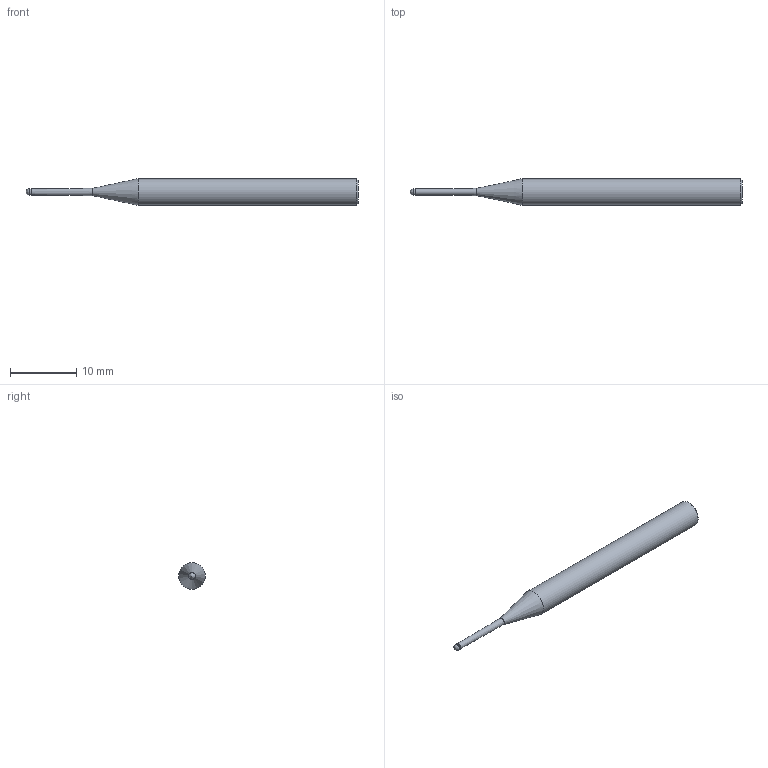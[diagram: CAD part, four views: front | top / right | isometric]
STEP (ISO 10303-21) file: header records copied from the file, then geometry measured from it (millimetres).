
FILE_DESCRIPTION(/* description */ (''),/* implementation_level */ '2;1');
FILE_NAME(/* name */ 'HGXPB2010-10-T0.4 0450.stp',/* time_stamp */ '2026-01-22T08:55:28+08:00',/* author */ (''),/* organization */ (''),/* preprocessor_version */ 'ST-DEVELOPER v16',/* originating_system */ 'SIEMENS PLM Software NX 10.0',/* authorisation */ '');
FILE_SCHEMA (('CONFIG_CONTROL_DESIGN'));
Length unit declared in the file: millimetre
Products named in the file (1): HGXPB2010-10-T0.4 0450_x_t
Bounding box: 50 x 4 x 4 mm (x, y, z)
Volume: 462.6 mm3; surface area: 515.3 mm2
Topology: 1 solids, 1 shells, 9 faces, 16 edges, 9 vertices
Faces by surface type: cylinder 3, cone 3, plane 2, bspline 1
Full cylindrical faces by diameter (mm): 0.95 x1, 1 x1, 4 x1
Entity records: 285 total; most frequent: CARTESIAN_POINT 54, DIRECTION 34, AXIS2_PLACEMENT_3D 17, FACE_BOUND 16, EDGE_LOOP 16, ORIENTED_EDGE 16, ADVANCED_FACE 9, VERTEX_POINT 9
